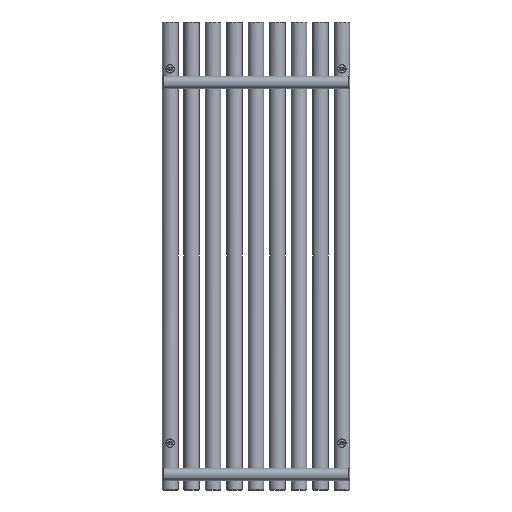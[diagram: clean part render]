
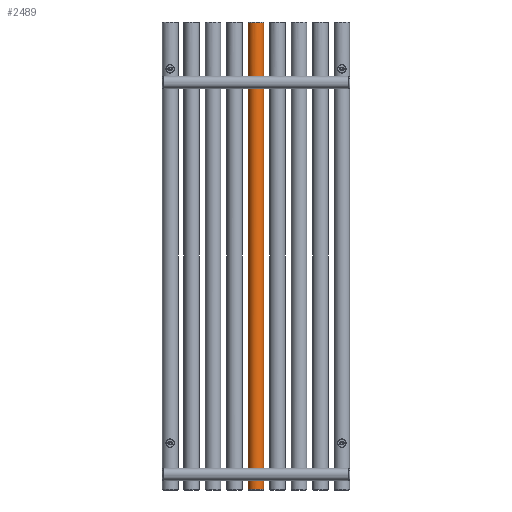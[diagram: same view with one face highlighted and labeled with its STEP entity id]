
A CAD part, front view. The second image highlights one B-rep face of the part: STEP entity #2489.
In plain terms, the highlighted cylindrical face has radius 20 mm (diameter 40 mm), a full revolution.
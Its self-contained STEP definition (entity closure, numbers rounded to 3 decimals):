
#193=FACE_BOUND('',#611,.T.);
#194=FACE_BOUND('',#612,.T.);
#233=LINE('',#5054,#311);
#311=VECTOR('',#3109,20.);
#389=CYLINDRICAL_SURFACE('',#2713,20.);
#429=FACE_OUTER_BOUND('',#610,.T.);
#610=EDGE_LOOP('',(#1768,#1769,#1770,#1771,#1772));
#611=EDGE_LOOP('',(#1773));
#612=EDGE_LOOP('',(#1774));
#816=B_SPLINE_CURVE_WITH_KNOTS('',3,(#5028,#5029,#5030,#5031,#5032,#5033,
#5034,#5035,#5036,#5037,#5038,#5039,#5040,#5041,#5042,#5043,#5044,#5045,
#5046,#5047,#5048),.UNSPECIFIED.,.T.,.F.,(4,1,1,1,1,1,1,1,1,1,1,1,1,1,1,
1,1,1,4),(-5.132,-4.765,-4.399,-4.154,
-3.91,-3.788,-3.666,-3.421,
-3.177,-2.933,-2.688,-2.199,
-1.955,-1.711,-1.466,-1.1,
-0.733,-0.367,0.),.UNSPECIFIED.);
#817=B_SPLINE_CURVE_WITH_KNOTS('',3,(#5058,#5059,#5060,#5061,#5062,#5063,
#5064,#5065,#5066,#5067,#5068,#5069,#5070,#5071,#5072,#5073,#5074,#5075,
#5076),.UNSPECIFIED.,.T.,.F.,(4,1,1,1,1,1,1,1,1,1,1,1,1,1,1,1,4),(-5.132,
-4.765,-4.399,-3.91,-3.666,-3.421,
-3.177,-2.933,-2.444,-2.199,
-1.955,-1.711,-1.466,-1.1,-0.733,
-0.367,0.),.UNSPECIFIED.);
#889=CIRCLE('',#2714,20.);
#890=CIRCLE('',#2715,20.);
#891=CIRCLE('',#2716,20.);
#1104=VERTEX_POINT('',#5026);
#1105=VERTEX_POINT('',#5050);
#1106=VERTEX_POINT('',#5051);
#1107=VERTEX_POINT('',#5053);
#1108=VERTEX_POINT('',#5057);
#1370=EDGE_CURVE('',#1104,#1104,#816,.T.);
#1371=EDGE_CURVE('',#1105,#1106,#889,.T.);
#1372=EDGE_CURVE('',#1105,#1107,#233,.T.);
#1373=EDGE_CURVE('',#1107,#1107,#890,.T.);
#1374=EDGE_CURVE('',#1106,#1105,#891,.T.);
#1375=EDGE_CURVE('',#1108,#1108,#817,.T.);
#1768=ORIENTED_EDGE('',*,*,#1371,.F.);
#1769=ORIENTED_EDGE('',*,*,#1372,.T.);
#1770=ORIENTED_EDGE('',*,*,#1373,.F.);
#1771=ORIENTED_EDGE('',*,*,#1372,.F.);
#1772=ORIENTED_EDGE('',*,*,#1374,.F.);
#1773=ORIENTED_EDGE('',*,*,#1375,.F.);
#1774=ORIENTED_EDGE('',*,*,#1370,.F.);
#2489=ADVANCED_FACE('',(#429,#193,#194),#389,.T.);
#2713=AXIS2_PLACEMENT_3D('',#5049,#3105,#3106);
#2714=AXIS2_PLACEMENT_3D('',#5052,#3107,#3108);
#2715=AXIS2_PLACEMENT_3D('',#5055,#3110,#3111);
#2716=AXIS2_PLACEMENT_3D('',#5056,#3112,#3113);
#3105=DIRECTION('center_axis',(0.,0.,1.));
#3106=DIRECTION('ref_axis',(-1.,0.,0.));
#3107=DIRECTION('center_axis',(0.,0.,1.));
#3108=DIRECTION('ref_axis',(-1.,0.,0.));
#3109=DIRECTION('',(0.,0.,-1.));
#3110=DIRECTION('center_axis',(0.,0.,-1.));
#3111=DIRECTION('ref_axis',(-1.,0.,0.));
#3112=DIRECTION('center_axis',(0.,0.,1.));
#3113=DIRECTION('ref_axis',(-1.,0.,0.));
#5026=CARTESIAN_POINT('',(-220.,-20.,50.1));
#5028=CARTESIAN_POINT('Ctrl Pts',(-220.,-20.,50.1));
#5029=CARTESIAN_POINT('Ctrl Pts',(-221.611,-20.,50.1));
#5030=CARTESIAN_POINT('Ctrl Pts',(-224.838,-19.598,49.587));
#5031=CARTESIAN_POINT('Ctrl Pts',(-228.411,-18.224,47.307));
#5032=CARTESIAN_POINT('Ctrl Pts',(-230.379,-17.114,44.115));
#5033=CARTESIAN_POINT('Ctrl Pts',(-230.993,-16.707,41.396));
#5034=CARTESIAN_POINT('Ctrl Pts',(-230.992,-16.708,39.163));
#5035=CARTESIAN_POINT('Ctrl Pts',(-230.666,-16.92,36.968));
#5036=CARTESIAN_POINT('Ctrl Pts',(-229.649,-17.552,34.429));
#5037=CARTESIAN_POINT('Ctrl Pts',(-227.534,-18.592,32.083));
#5038=CARTESIAN_POINT('Ctrl Pts',(-224.761,-19.504,30.58));
#5039=CARTESIAN_POINT('Ctrl Pts',(-220.581,-20.198,29.637));
#5040=CARTESIAN_POINT('Ctrl Pts',(-216.165,-19.824,30.09));
#5041=CARTESIAN_POINT('Ctrl Pts',(-212.466,-18.588,32.082));
#5042=CARTESIAN_POINT('Ctrl Pts',(-210.351,-17.556,34.43));
#5043=CARTESIAN_POINT('Ctrl Pts',(-208.927,-16.66,37.98));
#5044=CARTESIAN_POINT('Ctrl Pts',(-208.922,-16.66,42.599));
#5045=CARTESIAN_POINT('Ctrl Pts',(-211.137,-18.052,47.027));
#5046=CARTESIAN_POINT('Ctrl Pts',(-215.165,-19.6,49.585));
#5047=CARTESIAN_POINT('Ctrl Pts',(-218.389,-20.,50.1));
#5048=CARTESIAN_POINT('Ctrl Pts',(-220.,-20.,50.1));
#5049=CARTESIAN_POINT('Origin',(-220.,0.,0.));
#5050=CARTESIAN_POINT('',(-200.,0.,1198.));
#5051=CARTESIAN_POINT('',(-240.,0.,1198.));
#5052=CARTESIAN_POINT('Origin',(-220.,0.,1198.));
#5053=CARTESIAN_POINT('',(-200.,0.,2.));
#5054=CARTESIAN_POINT('',(-200.,0.,0.));
#5055=CARTESIAN_POINT('Origin',(-220.,0.,2.));
#5056=CARTESIAN_POINT('Origin',(-220.,0.,1198.));
#5057=CARTESIAN_POINT('',(-220.,-20.,1055.1));
#5058=CARTESIAN_POINT('Ctrl Pts',(-220.,-20.,1055.1));
#5059=CARTESIAN_POINT('Ctrl Pts',(-221.611,-20.,1055.1));
#5060=CARTESIAN_POINT('Ctrl Pts',(-224.83,-19.611,1054.58));
#5061=CARTESIAN_POINT('Ctrl Pts',(-229.319,-17.859,1051.751));
#5062=CARTESIAN_POINT('Ctrl Pts',(-231.21,-16.549,1046.99));
#5063=CARTESIAN_POINT('Ctrl Pts',(-230.867,-16.8,1042.472));
#5064=CARTESIAN_POINT('Ctrl Pts',(-229.651,-17.553,1039.432));
#5065=CARTESIAN_POINT('Ctrl Pts',(-227.534,-18.59,1037.082));
#5066=CARTESIAN_POINT('Ctrl Pts',(-223.837,-19.819,1035.088));
#5067=CARTESIAN_POINT('Ctrl Pts',(-219.419,-20.203,1034.641));
#5068=CARTESIAN_POINT('Ctrl Pts',(-215.24,-19.503,1035.58));
#5069=CARTESIAN_POINT('Ctrl Pts',(-212.467,-18.593,1037.084));
#5070=CARTESIAN_POINT('Ctrl Pts',(-210.351,-17.554,1039.428));
#5071=CARTESIAN_POINT('Ctrl Pts',(-208.928,-16.664,1042.98));
#5072=CARTESIAN_POINT('Ctrl Pts',(-208.923,-16.658,1047.598));
#5073=CARTESIAN_POINT('Ctrl Pts',(-211.135,-18.048,1052.029));
#5074=CARTESIAN_POINT('Ctrl Pts',(-215.165,-19.6,1054.585));
#5075=CARTESIAN_POINT('Ctrl Pts',(-218.389,-20.,1055.1));
#5076=CARTESIAN_POINT('Ctrl Pts',(-220.,-20.,1055.1));
